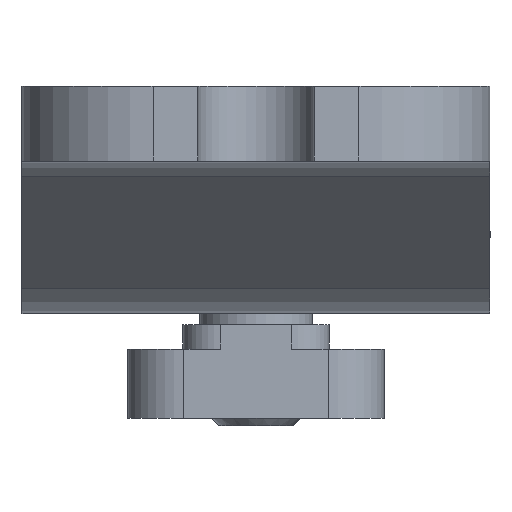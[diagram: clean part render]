
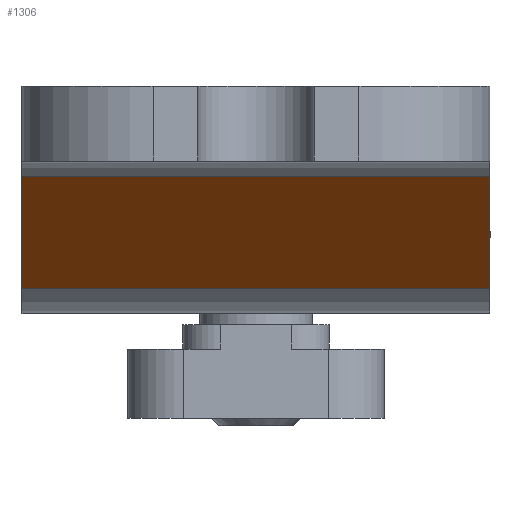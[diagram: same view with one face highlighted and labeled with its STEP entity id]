
A CAD part, front view. The second image highlights one B-rep face of the part: STEP entity #1306.
In plain terms, the highlighted planar face has unit normal (0, -0.5, -0.866).
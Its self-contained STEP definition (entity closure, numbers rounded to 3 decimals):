
#1267=CARTESIAN_POINT('',(0.,-7.815,-1.055));
#1268=DIRECTION('',(0.,0.5,0.866));
#1269=DIRECTION('',(1.0,0.0,0.0));
#1270=AXIS2_PLACEMENT_3D('',#1267,#1268,#1269);
#1271=PLANE('',#1270);
#1272=CARTESIAN_POINT('',(12.5,-18.89,5.34));
#1273=VERTEX_POINT('',#1272);
#1274=CARTESIAN_POINT('',(-12.5,-18.89,5.34));
#1275=VERTEX_POINT('',#1274);
#1276=CARTESIAN_POINT('',(12.5,-18.89,5.34));
#1277=DIRECTION('',(-1.0,0.0,0.0));
#1278=VECTOR('',#1277,25.);
#1279=LINE('',#1276,#1278);
#1280=EDGE_CURVE('',#1273,#1275,#1279,.T.);
#1281=ORIENTED_EDGE('',*,*,#1280,.T.);
#1282=CARTESIAN_POINT('',(-12.5,-8.498,-0.66));
#1283=VERTEX_POINT('',#1282);
#1284=CARTESIAN_POINT('',(-12.5,-8.498,-0.66));
#1285=DIRECTION('',(0.0,-0.866,0.5));
#1286=VECTOR('',#1285,12.);
#1287=LINE('',#1284,#1286);
#1288=EDGE_CURVE('',#1283,#1275,#1287,.T.);
#1289=ORIENTED_EDGE('',*,*,#1288,.F.);
#1290=CARTESIAN_POINT('',(12.5,-8.498,-0.66));
#1291=VERTEX_POINT('',#1290);
#1292=CARTESIAN_POINT('',(12.5,-8.498,-0.66));
#1293=DIRECTION('',(-1.0,0.0,0.0));
#1294=VECTOR('',#1293,25.);
#1295=LINE('',#1292,#1294);
#1296=EDGE_CURVE('',#1291,#1283,#1295,.T.);
#1297=ORIENTED_EDGE('',*,*,#1296,.F.);
#1298=CARTESIAN_POINT('',(12.5,-18.89,5.34));
#1299=DIRECTION('',(0.0,0.866,-0.5));
#1300=VECTOR('',#1299,12.);
#1301=LINE('',#1298,#1300);
#1302=EDGE_CURVE('',#1273,#1291,#1301,.T.);
#1303=ORIENTED_EDGE('',*,*,#1302,.F.);
#1304=EDGE_LOOP('',(#1281,#1289,#1297,#1303));
#1305=FACE_OUTER_BOUND('',#1304,.T.);
#1306=ADVANCED_FACE('',(#1305),#1271,.F.);
